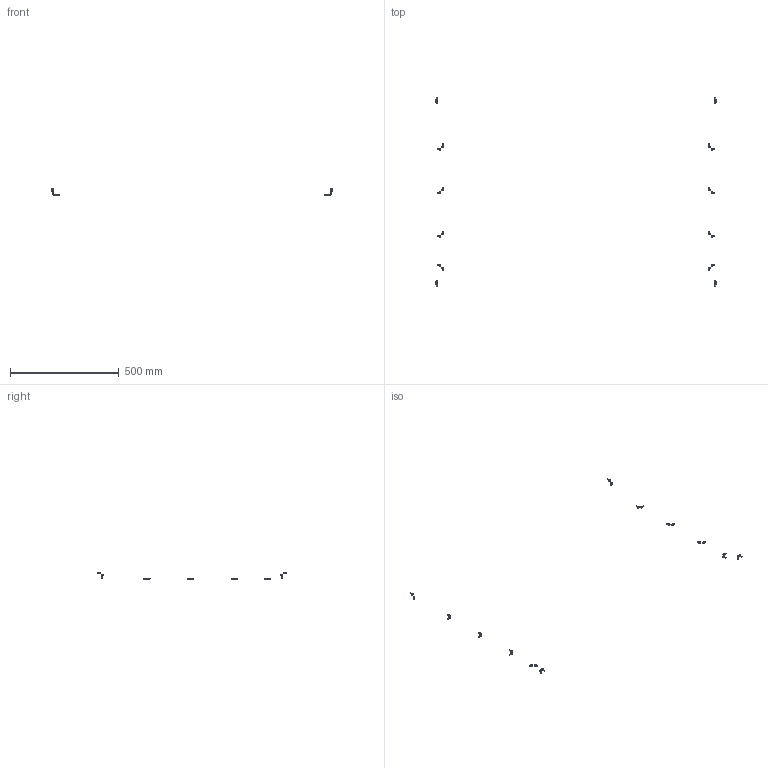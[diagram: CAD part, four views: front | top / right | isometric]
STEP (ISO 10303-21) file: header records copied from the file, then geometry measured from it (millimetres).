
FILE_DESCRIPTION(/* description */ (''),/* implementation_level */ '2;1');
FILE_NAME(/* name */ 'FR5A63~1',/* time_stamp */ '2014-02-14T19:50:20+01:00',/* author */ (''),/* organization */ (''),/* preprocessor_version */ 'ST-DEVELOPER v14',/* originating_system */ '',/* authorisation */ '');
FILE_SCHEMA (('AUTOMOTIVE_DESIGN'));
Length unit declared in the file: millimetre
Products named in the file (2): Document; screw DIN912-like, M5x10
Assembly tree (12 placements, depth 2):
  Document
    screw DIN912-like, M5x10  x12
Bounding box: 1288.5 x 871 x 36.49 mm (x, y, z)
Volume: 10520.8 mm3; surface area: 10231.7 mm2
Topology: 24 solids, 24 shells, 600 faces, 1344 edges, 792 vertices
Faces by surface type: plane 360, bspline 240
Entity records: 17765 total; most frequent: CARTESIAN_POINT 8179, B_SPLINE_CURVE_WITH_KNOTS 1638, ORIENTED_EDGE 1404, PCURVE 1404, DEFINITIONAL_REPRESENTATION 1404, SURFACE_CURVE 702, EDGE_CURVE 702, VERTEX_POINT 429
